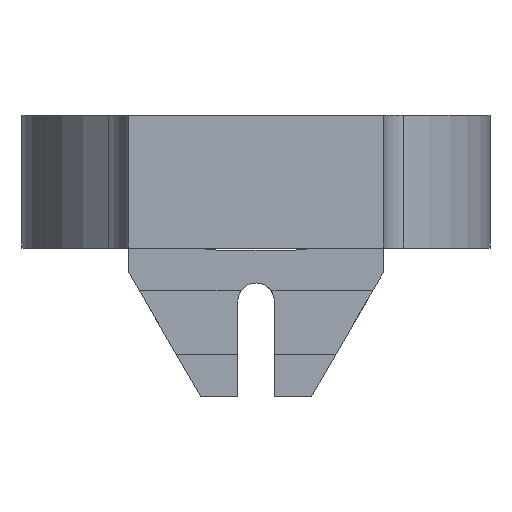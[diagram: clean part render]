
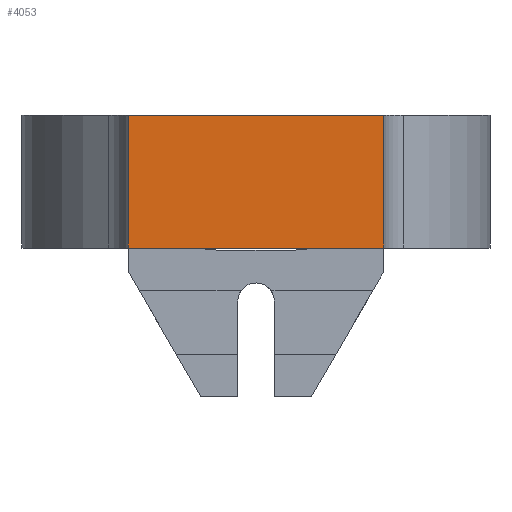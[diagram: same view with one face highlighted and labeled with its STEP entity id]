
A CAD part, front view. The second image highlights one B-rep face of the part: STEP entity #4053.
In plain terms, the highlighted planar face has unit normal (0, -1, 0).
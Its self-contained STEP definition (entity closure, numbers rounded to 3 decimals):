
#9=DIRECTION('',(-1.,0.,0.));
#10=VECTOR('',#9,30.48);
#11=CARTESIAN_POINT('',(15.24,0.,-7.938));
#12=LINE('',#11,#10);
#80=DIRECTION('',(0.,0.,1.));
#81=VECTOR('',#80,15.875);
#82=CARTESIAN_POINT('',(-15.24,0.,-7.938));
#83=LINE('',#82,#81);
#84=DIRECTION('',(-1.,0.,0.));
#85=VECTOR('',#84,30.48);
#86=CARTESIAN_POINT('',(15.24,0.,7.938));
#87=LINE('',#86,#85);
#92=DIRECTION('',(0.,0.,1.));
#93=VECTOR('',#92,15.875);
#94=CARTESIAN_POINT('',(15.24,0.,-7.938));
#95=LINE('',#94,#93);
#3760=CARTESIAN_POINT('',(-15.24,0.,-7.938));
#3762=VERTEX_POINT('',#3760);
#3764=CARTESIAN_POINT('',(-15.24,0.,7.938));
#3766=VERTEX_POINT('',#3764);
#3792=CARTESIAN_POINT('',(15.24,0.,-7.938));
#3794=VERTEX_POINT('',#3792);
#3803=CARTESIAN_POINT('',(15.24,0.,7.938));
#3804=VERTEX_POINT('',#3803);
#4040=CARTESIAN_POINT('',(0.,0.,7.938));
#4041=DIRECTION('',(0.,1.,0.));
#4042=DIRECTION('',(0.,0.,1.));
#4043=AXIS2_PLACEMENT_3D('',#4040,#4041,#4042);
#4044=PLANE('',#4043);
#4046=ORIENTED_EDGE('',*,*,#4045,.F.);
#4047=ORIENTED_EDGE('',*,*,#3992,.T.);
#4048=ORIENTED_EDGE('',*,*,#4030,.T.);
#4050=ORIENTED_EDGE('',*,*,#4049,.F.);
#4051=EDGE_LOOP('',(#4046,#4047,#4048,#4050));
#4052=FACE_OUTER_BOUND('',#4051,.F.);
#4053=ADVANCED_FACE('',(#4052),#4044,.F.);
#3992=EDGE_CURVE('',#3794,#3762,#12,.T.);
#4030=EDGE_CURVE('',#3762,#3766,#83,.T.);
#4045=EDGE_CURVE('',#3794,#3804,#95,.T.);
#4049=EDGE_CURVE('',#3804,#3766,#87,.T.);
